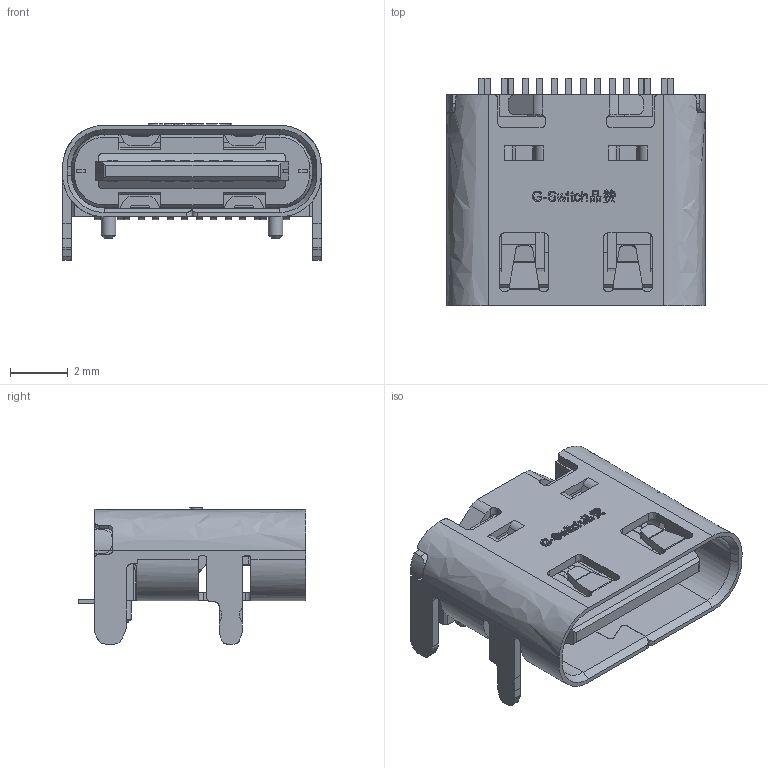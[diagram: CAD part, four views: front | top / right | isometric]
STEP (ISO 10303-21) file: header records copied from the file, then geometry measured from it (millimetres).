
FILE_DESCRIPTION (( 'STEP AP203' ), '1' );
FILE_NAME ('GT-USB-9010AB.STEP', '2023-10-26T04:05:04', ( 'Microsoft' ), ( 'Microsoft' ), 'SwSTEP 2.0', 'SolidWorks 2023', '' );
FILE_SCHEMA (( 'CONFIG_CONTROL_DESIGN' ));
Products named in the file (1): GT-USB-9010AB
Bounding box: 8.94 x 7.87 x 4.71 mm (x, y, z)
Surface area: 928.7 mm2 (no closed solid volume)
Topology: 0 solids, 891 shells, 2470 faces, 11803 edges, 10056 vertices
Faces by surface type: bspline 2273, plane 197
Entity records: 116689 total; most frequent: CARTESIAN_POINT 56379, ORIENTED_EDGE 15446, EDGE_CURVE 11811, B_SPLINE_CURVE_WITH_KNOTS 10181, VERTEX_POINT 10064, EDGE_LOOP 2575, FACE_OUTER_BOUND 2470, ADVANCED_FACE 2468
